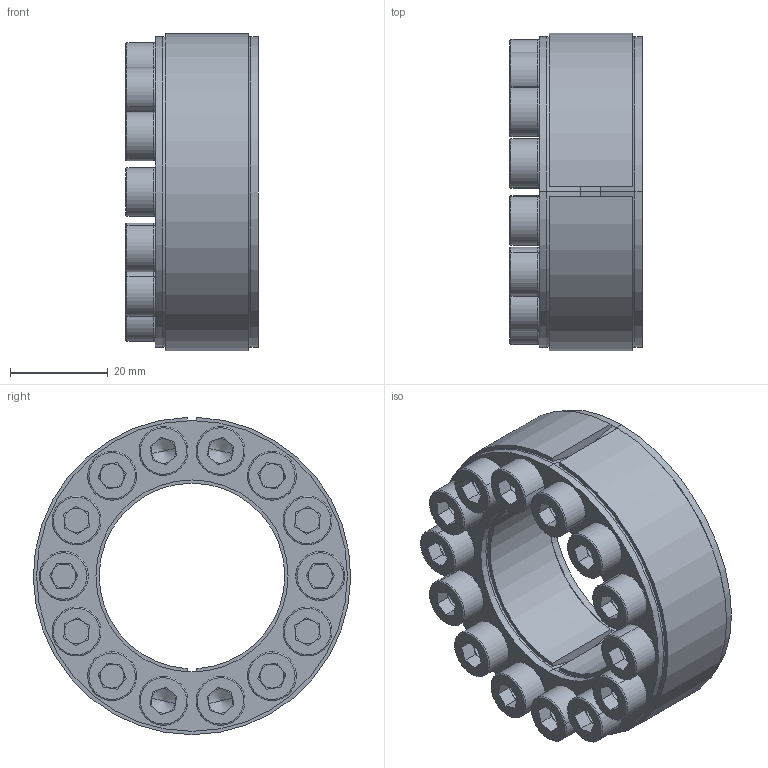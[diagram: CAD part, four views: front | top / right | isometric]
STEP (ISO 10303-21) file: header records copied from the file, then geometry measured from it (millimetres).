
FILE_DESCRIPTION (( 'STEP AP203' ), '1' );
FILE_NAME ('D1-38-65 Assy.STEP', '2017-10-11T03:20:34', ( 'MYCOM' ), ( '' ), 'SwSTEP 2.0', 'SolidWorks 2015', '' );
FILE_SCHEMA (( 'CONFIG_CONTROL_DESIGN' ));
Length unit declared in the file: millimetre
Products named in the file (1): D1-38-65 Assy
Bounding box: 27.14 x 64.99 x 64.98 mm (x, y, z)
Surface area: 23264.4 mm2 (no closed solid volume)
Topology: 0 solids, 32 shells, 396 faces, 960 edges, 586 vertices
Faces by surface type: plane 200, cylinder 95, torus 56, cone 45
Entity records: 11523 total; most frequent: DIRECTION 2193, CARTESIAN_POINT 1983, ORIENTED_EDGE 1732, EDGE_CURVE 952, AXIS2_PLACEMENT_3D 852, VERTEX_POINT 586, LINE 489, VECTOR 489
